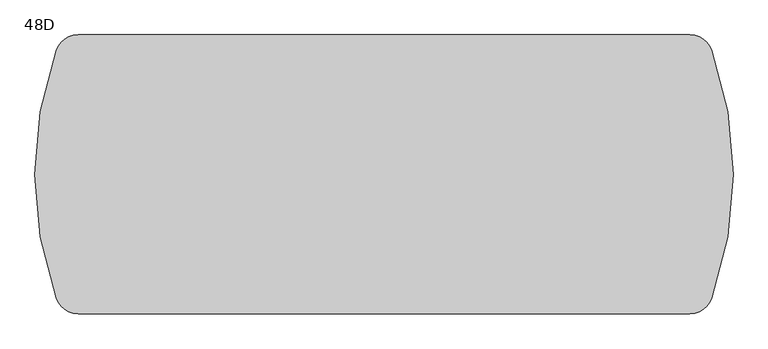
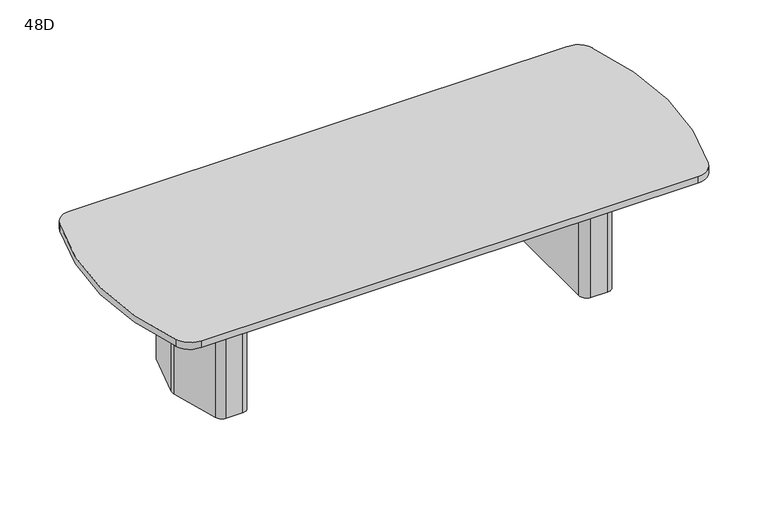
"""IFC4 building model written with IfcOpenShell, lengths in millimetres: furniture geometry, Coalesse_AM_Table_Conference_ETable2_SoftRadiused_10ft_TwoBase : 48D."""

from ifc_helpers import new_model, si_unit, frame, origin, place, context, project, spatial, polyline, circle_curve, outline, extrude, source, transform, mapped, element, save
from ifc_brep_helpers import plane_surface, cylinder_surface, revolved_surface, advanced_brep


def furniture_48d_a796beaa(model_context):
    return source(origin(), model_context, "Body", "SolidModel", [
        advanced_brep(
        [(1065.424548, 274.2093613, 698.5), (1025.5579246, 304.8, 698.5), (936.625, 304.8, 698.5), (895.35, 263.525, 698.5), (895.35, -263.525, 698.5), (936.625, -304.8, 698.5), (1025.5579246, -304.8, 698.5), (1065.424548, -274.2093613, 698.5), (1136.0503901, -10.6333708, 698.5), (1136.0503901, 10.6333708, 698.5), (933.45, -206.375, 698.5), (933.45, 206.375, 698.5), (958.85, 231.775, 698.5), (1017.8608422, 231.775, 698.5), (1042.395338, 212.9490792, 698.5), (1081.0875, 68.54974, 698.5), (1081.0875, -68.54974, 698.5), (1042.395338, -212.9490792, 698.5), (1017.8608422, -231.775, 698.5), (958.85, -231.775, 698.5), (1065.424548, 274.2093613, 3.175), (1136.0503901, 10.6333708, 3.175), (1136.0503901, -10.6333708, 3.175), (1065.424548, -274.2093613, 3.175), (1025.5579246, -304.8, 3.175), (936.625, -304.8, 3.175), (895.35, -263.525, 3.175), (895.35, 263.525, 3.175), (936.625, 304.8, 3.175), (1025.5579246, 304.8, 3.175), (1054.6625859, 216.2361187, 3.175), (1017.8608422, 244.475, 3.175), (958.85, 244.475, 3.175), (920.75, 206.375, 3.175), (920.75, -206.375, 3.175), (958.85, -244.475, 3.175), (1017.8608422, -244.475, 3.175), (1054.6625859, -216.2361187, 3.175), (1093.7875, -70.2217466, 3.175), (1093.7875, 70.2217466, 3.175), (958.85, -231.775, 3.175), (933.45, -206.375, 3.175), (1017.8608422, -231.775, 3.175), (1042.395338, -212.9490792, 3.175), (1081.0875, -68.54974, 3.175), (1081.0875, 68.54974, 3.175), (1042.395338, 212.9490792, 3.175), (1017.8608422, 231.775, 3.175), (958.85, 231.775, 3.175), (933.45, 206.375, 3.175), (1054.6625859, 216.2361187, 0.0), (1093.7875, 70.2217466, 0.0), (1093.7875, -70.2217466, 0.0), (1054.6625859, -216.2361187, 0.0), (1017.8608422, -244.475, 0.0), (958.85, -244.475, 0.0), (920.75, -206.375, 0.0), (920.75, 206.375, 0.0), (958.85, 244.475, 0.0), (1017.8608422, 244.475, 0.0)],
        [
            (0, 1, circle_curve(frame((1025.5579246, 263.5270004, 698.5), z_axis=(0.0, 0.0, 1.0), x_axis=(-1.0, 0.0, 0.0)), 41.2729996)),
            (1, 2),
            (2, 3, circle_curve(frame((936.625, 263.525, 698.5), z_axis=(0.0, 0.0, 1.0), x_axis=(-1.0, 0.0, 0.0)), 41.275)),
            (3, 4),
            (4, 5, circle_curve(frame((936.625, -263.525, 698.5), z_axis=(0.0, 0.0, 1.0), x_axis=(-1.0, 0.0, 0.0)), 41.275)),
            (5, 6),
            (6, 7, circle_curve(frame((1025.5579246, -263.5270004, 698.5), z_axis=(0.0, 0.0, 1.0), x_axis=(-1.0, 0.0, 0.0)), 41.2729996)),
            (7, 8),
            (8, 9, circle_curve(frame((1096.3665979, 0.0, 698.5), z_axis=(0.0, 0.0, 1.0), x_axis=(-1.0, 0.0, 0.0)), 41.0837187)),
            (9, 0),
            (10, 11),
            (11, 12, circle_curve(frame((958.85, 206.375, 698.5), z_axis=(0.0, 0.0, -1.0), x_axis=(-1.0, 0.0, 0.0)), 25.4)),
            (12, 13),
            (13, 14, circle_curve(frame((1017.8608422, 206.375, 698.5), z_axis=(0.0, 0.0, -1.0), x_axis=(-1.0, 0.0, 0.0)), 25.4)),
            (14, 15),
            (15, 16),
            (16, 17),
            (17, 18, circle_curve(frame((1017.8608422, -206.375, 698.5), z_axis=(0.0, 0.0, -1.0), x_axis=(-1.0, 0.0, 0.0)), 25.4)),
            (18, 19),
            (19, 10, circle_curve(frame((958.85, -206.375, 698.5), z_axis=(0.0, 0.0, -1.0), x_axis=(-1.0, 0.0, 0.0)), 25.4)),
            (20, 21),
            (21, 22, circle_curve(frame((1096.3665979, 0.0, 3.175), z_axis=(0.0, 0.0, -1.0), x_axis=(-1.0, 0.0, 0.0)), 41.0837187)),
            (22, 23),
            (23, 24, circle_curve(frame((1025.5579246, -263.5270004, 3.175), z_axis=(0.0, 0.0, -1.0), x_axis=(-1.0, 0.0, 0.0)), 41.2729996)),
            (24, 25),
            (25, 26, circle_curve(frame((936.625, -263.525, 3.175), z_axis=(0.0, 0.0, -1.0), x_axis=(-1.0, 0.0, 0.0)), 41.275)),
            (26, 27),
            (27, 28, circle_curve(frame((936.625, 263.525, 3.175), z_axis=(0.0, 0.0, -1.0), x_axis=(-1.0, 0.0, 0.0)), 41.275)),
            (28, 29),
            (29, 20, circle_curve(frame((1025.5579246, 263.5270004, 3.175), z_axis=(0.0, 0.0, -1.0), x_axis=(-1.0, 0.0, 0.0)), 41.2729996)),
            (30, 31, circle_curve(frame((1017.8608422, 206.375, 3.175), z_axis=(0.0, 0.0, 1.0), x_axis=(-1.0, 0.0, 0.0)), 38.1)),
            (31, 32),
            (32, 33, circle_curve(frame((958.85, 206.375, 3.175), z_axis=(0.0, 0.0, 1.0), x_axis=(-1.0, 0.0, 0.0)), 38.1)),
            (33, 34),
            (34, 35, circle_curve(frame((958.85, -206.375, 3.175), z_axis=(0.0, 0.0, 1.0), x_axis=(-1.0, 0.0, 0.0)), 38.1)),
            (35, 36),
            (36, 37, circle_curve(frame((1017.8608422, -206.375, 3.175), z_axis=(0.0, 0.0, 1.0), x_axis=(-1.0, 0.0, 0.0)), 38.1)),
            (37, 38),
            (38, 39),
            (39, 30),
            (9, 21),
            (20, 0),
            (8, 22),
            (7, 23),
            (6, 24),
            (5, 25),
            (4, 26),
            (3, 27),
            (2, 28),
            (1, 29),
            (19, 40),
            (40, 41, circle_curve(frame((958.85, -206.375, 3.175), z_axis=(0.0, 0.0, -1.0), x_axis=(-1.0, 0.0, 0.0)), 25.4)),
            (41, 10),
            (18, 42),
            (42, 40),
            (17, 43),
            (43, 42, circle_curve(frame((1017.8608422, -206.375, 3.175), z_axis=(0.0, 0.0, -1.0), x_axis=(-1.0, 0.0, 0.0)), 25.4)),
            (16, 44),
            (44, 43),
            (15, 45),
            (45, 44),
            (14, 46),
            (46, 45),
            (13, 47),
            (47, 46, circle_curve(frame((1017.8608422, 206.375, 3.175), z_axis=(0.0, 0.0, -1.0), x_axis=(-1.0, 0.0, 0.0)), 25.4)),
            (12, 48),
            (48, 47),
            (11, 49),
            (49, 48, circle_curve(frame((958.85, 206.375, 3.175), z_axis=(0.0, 0.0, -1.0), x_axis=(-1.0, 0.0, 0.0)), 25.4)),
            (41, 49),
            (50, 51),
            (51, 52),
            (52, 53),
            (53, 54, circle_curve(frame((1017.8608422, -206.375, 0.0), z_axis=(0.0, 0.0, -1.0), x_axis=(-1.0, 0.0, 0.0)), 38.1)),
            (54, 55),
            (55, 56, circle_curve(frame((958.85, -206.375, 0.0), z_axis=(0.0, 0.0, -1.0), x_axis=(-1.0, 0.0, 0.0)), 38.1)),
            (56, 57),
            (57, 58, circle_curve(frame((958.85, 206.375, 0.0), z_axis=(0.0, 0.0, -1.0), x_axis=(-1.0, 0.0, 0.0)), 38.1)),
            (58, 59),
            (59, 50, circle_curve(frame((1017.8608422, 206.375, 0.0), z_axis=(0.0, 0.0, -1.0), x_axis=(-1.0, 0.0, 0.0)), 38.1)),
            (50, 30),
            (39, 51),
            (38, 52),
            (37, 53),
            (36, 54),
            (35, 55),
            (34, 56),
            (33, 57),
            (32, 58),
            (31, 59),
        ],
        [
            plane_surface(frame((1136.0374275, 10.6817473, 698.5), z_axis=(0.0, 0.0, 1.0000000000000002), x_axis=(0.25882201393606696, -0.9659250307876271, 0.0))),
            plane_surface(frame((1136.0374275, 10.6817473, 3.175), z_axis=(0.0, 0.0, -1.0000000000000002), x_axis=(-0.25882201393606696, 0.9659250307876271, 0.0))),
            plane_surface(frame((1065.424548, 274.2093613, 698.5), z_axis=(0.9659250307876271, 0.25882201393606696, 0.0), x_axis=(0.0, 0.0, -1.0))),
            cylinder_surface(frame((1096.3665979, 0.0, 3.175), z_axis=(0.0, 0.0, 1.0), x_axis=(-1.0, 0.0, 0.0)), 41.0837187),
            plane_surface(frame((1136.0503901, -10.6333708, 698.5), z_axis=(0.9659250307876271, -0.2588220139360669, 0.0), x_axis=(0.0, 0.0, -1.0))),
            cylinder_surface(frame((1025.5579246, -263.5270004, 3.175), z_axis=(0.0, 0.0, 1.0), x_axis=(-1.0, 0.0, 0.0)), 41.2729996),
            plane_surface(frame((1025.5579246, -304.8, 698.5), z_axis=(0.0, -1.0, 0.0), x_axis=(0.0, 0.0, -1.0))),
            cylinder_surface(frame((936.625, -263.525, 3.175), z_axis=(0.0, 0.0, 1.0), x_axis=(-1.0, 0.0, 0.0)), 41.275),
            plane_surface(frame((895.35, -263.525, 698.5), z_axis=(-1.0, 0.0, 0.0), x_axis=(0.0, 0.0, -1.0))),
            cylinder_surface(frame((936.625, 263.525, 3.175), z_axis=(0.0, 0.0, 1.0), x_axis=(-1.0, 0.0, 0.0)), 41.275),
            plane_surface(frame((936.625, 304.8, 698.5), z_axis=(0.0, 1.0, 0.0), x_axis=(0.0, 0.0, -1.0))),
            cylinder_surface(frame((1025.5579246, 263.5270004, 3.175), z_axis=(0.0, 0.0, 1.0), x_axis=(-1.0, 0.0, 0.0)), 41.2729996),
            revolved_surface(polyline([(933.45, -206.375, 3.175), (933.45, -206.375, 698.5)]), (958.85, -206.375, 0.0), (0.0, 0.0, -1.0)),
            plane_surface(frame((958.85, -231.775, 698.5), z_axis=(0.0, 1.0, 0.0), x_axis=(0.0, 0.0, -1.0))),
            revolved_surface(polyline([(992.4608422, -206.375, 3.175), (992.4608422, -206.375, 698.5)]), (1017.8608422, -206.375, 0.0), (0.0, 0.0, -1.0)),
            plane_surface(frame((1042.395338, -212.9490792, 698.5), z_axis=(-0.9659250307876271, 0.2588220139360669, 0.0), x_axis=(0.0, 0.0, -1.0))),
            plane_surface(frame((1081.0875, -68.54974, 698.5), z_axis=(-1.0, 0.0, 0.0), x_axis=(0.0, 0.0, -1.0))),
            plane_surface(frame((1081.0875, 68.54974, 698.5), z_axis=(-0.9659250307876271, -0.25882201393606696, 0.0), x_axis=(0.0, 0.0, -1.0))),
            revolved_surface(polyline([(992.4608422, 206.375, 3.175), (992.4608422, 206.375, 698.5)]), (1017.8608422, 206.375, 0.0), (0.0, 0.0, -1.0)),
            plane_surface(frame((1017.8608422, 231.775, 698.5), z_axis=(0.0, -1.0, 0.0), x_axis=(0.0, 0.0, -1.0))),
            revolved_surface(polyline([(933.45, 206.375, 3.175), (933.45, 206.375, 698.5)]), (958.85, 206.375, 0.0), (0.0, 0.0, -1.0)),
            plane_surface(frame((933.45, 206.375, 698.5), z_axis=(1.0, 0.0, 0.0), x_axis=(0.0, 0.0, -1.0))),
            plane_surface(frame((1093.3547479, 71.8367796, 3.175), z_axis=(0.0, 0.0, 1.0), x_axis=(0.25882201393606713, -0.965925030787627, 0.0))),
            plane_surface(frame((1093.3547479, 71.8367796, 0.0), z_axis=(0.0, 0.0, -1.0), x_axis=(-0.25882201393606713, 0.965925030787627, 0.0))),
            plane_surface(frame((1054.6625859, 216.2361187, 3.175), z_axis=(0.965925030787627, 0.25882201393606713, 0.0), x_axis=(0.0, 0.0, -1.0))),
            plane_surface(frame((1093.7875, 70.2217466, 3.175), z_axis=(1.0, 0.0, 0.0), x_axis=(0.0, 0.0, -1.0))),
            plane_surface(frame((1093.7875, -70.2217466, 3.175), z_axis=(0.9659250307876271, -0.2588220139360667, 0.0), x_axis=(0.0, 0.0, -1.0))),
            cylinder_surface(frame((1017.8608422, -206.375, 0.0), z_axis=(0.0, 0.0, 1.0), x_axis=(-1.0, 0.0, 0.0)), 38.1),
            plane_surface(frame((1017.8608422, -244.475, 3.175), z_axis=(0.0, -1.0, 0.0), x_axis=(0.0, 0.0, -1.0))),
            cylinder_surface(frame((958.85, -206.375, 0.0), z_axis=(0.0, 0.0, 1.0), x_axis=(-1.0, 0.0, 0.0)), 38.1),
            plane_surface(frame((920.75, -206.375, 3.175), z_axis=(-1.0, 0.0, 0.0), x_axis=(0.0, 0.0, -1.0))),
            cylinder_surface(frame((958.85, 206.375, 0.0), z_axis=(0.0, 0.0, 1.0), x_axis=(-1.0, 0.0, 0.0)), 38.1),
            plane_surface(frame((958.85, 244.475, 3.175), z_axis=(0.0, 1.0, 0.0), x_axis=(0.0, 0.0, -1.0))),
            cylinder_surface(frame((1017.8608422, 206.375, 0.0), z_axis=(0.0, 0.0, 1.0), x_axis=(-1.0, 0.0, 0.0)), 38.1),
        ],
        [
            (0, [[1, 2, 3, 4, 5, 6, 7, 8, 9, 10], [11, 12, 13, 14, 15, 16, 17, 18, 19, 20]]),
            (1, [[21, 22, 23, 24, 25, 26, 27, 28, 29, 30], [31, 32, 33, 34, 35, 36, 37, 38, 39, 40]]),
            (2, [[41, -21, 42, -10]]),
            (3, [[43, -22, -41, -9]]),
            (4, [[44, -23, -43, -8]]),
            (5, [[45, -24, -44, -7]]),
            (6, [[46, -25, -45, -6]]),
            (7, [[47, -26, -46, -5]]),
            (8, [[48, -27, -47, -4]]),
            (9, [[49, -28, -48, -3]]),
            (10, [[50, -29, -49, -2]]),
            (11, [[-42, -30, -50, -1]]),
            (12, [[51, 52, 53, -20]]),
            (13, [[54, 55, -51, -19]]),
            (14, [[56, 57, -54, -18]]),
            (15, [[58, 59, -56, -17]]),
            (16, [[60, 61, -58, -16]]),
            (17, [[62, 63, -60, -15]]),
            (18, [[64, 65, -62, -14]]),
            (19, [[66, 67, -64, -13]]),
            (20, [[68, 69, -66, -12]]),
            (21, [[-53, 70, -68, -11]]),
            (22, [[-55, -57, -59, -61, -63, -65, -67, -69, -70, -52]]),
            (23, [[71, 72, 73, 74, 75, 76, 77, 78, 79, 80]]),
            (24, [[81, -40, 82, -71]]),
            (25, [[-82, -39, 83, -72]]),
            (26, [[-83, -38, 84, -73]]),
            (27, [[-84, -37, 85, -74]]),
            (28, [[-85, -36, 86, -75]]),
            (29, [[-86, -35, 87, -76]]),
            (30, [[-87, -34, 88, -77]]),
            (31, [[-88, -33, 89, -78]]),
            (32, [[-89, -32, 90, -79]]),
            (33, [[-90, -31, -81, -80]]),
        ],
    ),
        advanced_brep(
        [(-1065.424548, 274.2093613, 698.5), (-1136.0503901, 10.6333708, 698.5), (-1136.0503901, -10.6333708, 698.5), (-1065.424548, -274.2093613, 698.5), (-1025.5579246, -304.8, 698.5), (-936.625, -304.8, 698.5), (-895.35, -263.525, 698.5), (-895.35, 263.525, 698.5), (-936.625, 304.8, 698.5), (-1025.5579246, 304.8, 698.5), (-933.45, -206.375, 698.5), (-958.85, -231.775, 698.5), (-1017.8608422, -231.775, 698.5), (-1042.395338, -212.9490792, 698.5), (-1081.0875, -68.54974, 698.5), (-1081.0875, 68.54974, 698.5), (-1042.395338, 212.9490792, 698.5), (-1017.8608422, 231.775, 698.5), (-958.85, 231.775, 698.5), (-933.45, 206.375, 698.5), (-1065.424548, 274.2093613, 3.175), (-1025.5579246, 304.8, 3.175), (-936.625, 304.8, 3.175), (-895.35, 263.525, 3.175), (-895.35, -263.525, 3.175), (-936.625, -304.8, 3.175), (-1025.5579246, -304.8, 3.175), (-1065.424548, -274.2093613, 3.175), (-1136.0503901, -10.6333708, 3.175), (-1136.0503901, 10.6333708, 3.175), (-1054.6625859, 216.2361187, 3.175), (-1093.7875, 70.2217466, 3.175), (-1093.7875, -70.2217466, 3.175), (-1054.6625859, -216.2361187, 3.175), (-1017.8608422, -244.475, 3.175), (-958.85, -244.475, 3.175), (-920.75, -206.375, 3.175), (-920.75, 206.375, 3.175), (-958.85, 244.475, 3.175), (-1017.8608422, 244.475, 3.175), (-933.45, -206.375, 3.175), (-958.85, -231.775, 3.175), (-1017.8608422, -231.775, 3.175), (-1042.395338, -212.9490792, 3.175), (-1081.0875, -68.54974, 3.175), (-1081.0875, 68.54974, 3.175), (-1042.395338, 212.9490792, 3.175), (-1017.8608422, 231.775, 3.175), (-958.85, 231.775, 3.175), (-933.45, 206.375, 3.175), (-1054.6625859, 216.2361187, 0.0), (-1017.8608422, 244.475, 0.0), (-958.85, 244.475, 0.0), (-920.75, 206.375, 0.0), (-920.75, -206.375, 0.0), (-958.85, -244.475, 0.0), (-1017.8608422, -244.475, 0.0), (-1054.6625859, -216.2361187, 0.0), (-1093.7875, -70.2217466, 0.0), (-1093.7875, 70.2217466, 0.0)],
        [
            (0, 1),
            (1, 2, circle_curve(frame((-1096.3665979, 0.0, 698.5), z_axis=(0.0, 0.0, 1.0), x_axis=(1.0, 0.0, 0.0)), 41.0837187)),
            (2, 3),
            (3, 4, circle_curve(frame((-1025.5579246, -263.5270004, 698.5), z_axis=(0.0, 0.0, 1.0), x_axis=(1.0, 0.0, 0.0)), 41.2729996)),
            (4, 5),
            (5, 6, circle_curve(frame((-936.625, -263.525, 698.5), z_axis=(0.0, 0.0, 1.0), x_axis=(1.0, 0.0, 0.0)), 41.275)),
            (6, 7),
            (7, 8, circle_curve(frame((-936.625, 263.525, 698.5), z_axis=(0.0, 0.0, 1.0), x_axis=(1.0, 0.0, 0.0)), 41.275)),
            (8, 9),
            (9, 0, circle_curve(frame((-1025.5579246, 263.5270004, 698.5), z_axis=(0.0, 0.0, 1.0), x_axis=(1.0, 0.0, 0.0)), 41.2729996)),
            (10, 11, circle_curve(frame((-958.85, -206.375, 698.5), z_axis=(0.0, 0.0, -1.0), x_axis=(1.0, 0.0, 0.0)), 25.4)),
            (11, 12),
            (12, 13, circle_curve(frame((-1017.8608422, -206.375, 698.5), z_axis=(0.0, 0.0, -1.0), x_axis=(1.0, 0.0, 0.0)), 25.4)),
            (13, 14),
            (14, 15),
            (15, 16),
            (16, 17, circle_curve(frame((-1017.8608422, 206.375, 698.5), z_axis=(0.0, 0.0, -1.0), x_axis=(1.0, 0.0, 0.0)), 25.4)),
            (17, 18),
            (18, 19, circle_curve(frame((-958.85, 206.375, 698.5), z_axis=(0.0, 0.0, -1.0), x_axis=(1.0, 0.0, 0.0)), 25.4)),
            (19, 10),
            (20, 21, circle_curve(frame((-1025.5579246, 263.5270004, 3.175), z_axis=(0.0, 0.0, -1.0), x_axis=(1.0, 0.0, 0.0)), 41.2729996)),
            (21, 22),
            (22, 23, circle_curve(frame((-936.625, 263.525, 3.175), z_axis=(0.0, 0.0, -1.0), x_axis=(1.0, 0.0, 0.0)), 41.275)),
            (23, 24),
            (24, 25, circle_curve(frame((-936.625, -263.525, 3.175), z_axis=(0.0, 0.0, -1.0), x_axis=(1.0, 0.0, 0.0)), 41.275)),
            (25, 26),
            (26, 27, circle_curve(frame((-1025.5579246, -263.5270004, 3.175), z_axis=(0.0, 0.0, -1.0), x_axis=(1.0, 0.0, 0.0)), 41.2729996)),
            (27, 28),
            (28, 29, circle_curve(frame((-1096.3665979, 0.0, 3.175), z_axis=(0.0, 0.0, -1.0), x_axis=(1.0, 0.0, 0.0)), 41.0837187)),
            (29, 20),
            (30, 31),
            (31, 32),
            (32, 33),
            (33, 34, circle_curve(frame((-1017.8608422, -206.375, 3.175), z_axis=(0.0, 0.0, 1.0), x_axis=(1.0, 0.0, 0.0)), 38.1)),
            (34, 35),
            (35, 36, circle_curve(frame((-958.85, -206.375, 3.175), z_axis=(0.0, 0.0, 1.0), x_axis=(1.0, 0.0, 0.0)), 38.1)),
            (36, 37),
            (37, 38, circle_curve(frame((-958.85, 206.375, 3.175), z_axis=(0.0, 0.0, 1.0), x_axis=(1.0, 0.0, 0.0)), 38.1)),
            (38, 39),
            (39, 30, circle_curve(frame((-1017.8608422, 206.375, 3.175), z_axis=(0.0, 0.0, 1.0), x_axis=(1.0, 0.0, 0.0)), 38.1)),
            (0, 20),
            (29, 1),
            (28, 2),
            (27, 3),
            (26, 4),
            (25, 5),
            (24, 6),
            (23, 7),
            (22, 8),
            (21, 9),
            (10, 40),
            (40, 41, circle_curve(frame((-958.85, -206.375, 3.175), z_axis=(0.0, 0.0, -1.0), x_axis=(1.0, 0.0, 0.0)), 25.4)),
            (41, 11),
            (41, 42),
            (42, 12),
            (42, 43, circle_curve(frame((-1017.8608422, -206.375, 3.175), z_axis=(0.0, 0.0, -1.0), x_axis=(1.0, 0.0, 0.0)), 25.4)),
            (43, 13),
            (43, 44),
            (44, 14),
            (44, 45),
            (45, 15),
            (45, 46),
            (46, 16),
            (46, 47, circle_curve(frame((-1017.8608422, 206.375, 3.175), z_axis=(0.0, 0.0, -1.0), x_axis=(1.0, 0.0, 0.0)), 25.4)),
            (47, 17),
            (47, 48),
            (48, 18),
            (48, 49, circle_curve(frame((-958.85, 206.375, 3.175), z_axis=(0.0, 0.0, -1.0), x_axis=(1.0, 0.0, 0.0)), 25.4)),
            (49, 19),
            (49, 40),
            (50, 51, circle_curve(frame((-1017.8608422, 206.375, 0.0), z_axis=(0.0, 0.0, -1.0), x_axis=(1.0, 0.0, 0.0)), 38.1)),
            (51, 52),
            (52, 53, circle_curve(frame((-958.85, 206.375, 0.0), z_axis=(0.0, 0.0, -1.0), x_axis=(1.0, 0.0, 0.0)), 38.1)),
            (53, 54),
            (54, 55, circle_curve(frame((-958.85, -206.375, 0.0), z_axis=(0.0, 0.0, -1.0), x_axis=(1.0, 0.0, 0.0)), 38.1)),
            (55, 56),
            (56, 57, circle_curve(frame((-1017.8608422, -206.375, 0.0), z_axis=(0.0, 0.0, -1.0), x_axis=(1.0, 0.0, 0.0)), 38.1)),
            (57, 58),
            (58, 59),
            (59, 50),
            (59, 31),
            (30, 50),
            (58, 32),
            (57, 33),
            (56, 34),
            (55, 35),
            (54, 36),
            (53, 37),
            (52, 38),
            (51, 39),
        ],
        [
            plane_surface(frame((-1136.0374275, 10.6817473, 698.5), z_axis=(0.0, 0.0, 1.0000000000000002), x_axis=(-0.25882201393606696, -0.9659250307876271, 0.0))),
            plane_surface(frame((-1136.0374275, 10.6817473, 3.175), z_axis=(0.0, 0.0, -1.0000000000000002), x_axis=(0.25882201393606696, 0.9659250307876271, 0.0))),
            plane_surface(frame((-1065.424548, 274.2093613, 698.5), z_axis=(-0.9659250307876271, 0.25882201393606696, 0.0), x_axis=(0.0, 0.0, -1.0))),
            cylinder_surface(frame((-1096.3665979, 0.0, 3.175), z_axis=(0.0, 0.0, 1.0), x_axis=(1.0, 0.0, 0.0)), 41.0837187),
            plane_surface(frame((-1136.0503901, -10.6333708, 698.5), z_axis=(-0.9659250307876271, -0.2588220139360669, 0.0), x_axis=(0.0, 0.0, -1.0))),
            cylinder_surface(frame((-1025.5579246, -263.5270004, 3.175), z_axis=(0.0, 0.0, 1.0), x_axis=(1.0, 0.0, 0.0)), 41.2729996),
            plane_surface(frame((-1025.5579246, -304.8, 698.5), z_axis=(0.0, -1.0, 0.0), x_axis=(0.0, 0.0, -1.0))),
            cylinder_surface(frame((-936.625, -263.525, 3.175), z_axis=(0.0, 0.0, 1.0), x_axis=(1.0, 0.0, 0.0)), 41.275),
            plane_surface(frame((-895.35, -263.525, 698.5), z_axis=(1.0, 0.0, 0.0), x_axis=(0.0, 0.0, -1.0))),
            cylinder_surface(frame((-936.625, 263.525, 3.175), z_axis=(0.0, 0.0, 1.0), x_axis=(1.0, 0.0, 0.0)), 41.275),
            plane_surface(frame((-936.625, 304.8, 698.5), z_axis=(0.0, 1.0, 0.0), x_axis=(0.0, 0.0, -1.0))),
            cylinder_surface(frame((-1025.5579246, 263.5270004, 3.175), z_axis=(0.0, 0.0, 1.0), x_axis=(1.0, 0.0, 0.0)), 41.2729996),
            revolved_surface(polyline([(-933.45, -206.375, 3.175), (-933.45, -206.375, 698.5)]), (-958.85, -206.375, 0.0), (0.0, 0.0, -1.0)),
            plane_surface(frame((-958.85, -231.775, 698.5), z_axis=(0.0, 1.0, 0.0), x_axis=(0.0, 0.0, -1.0))),
            revolved_surface(polyline([(-992.4608422, -206.375, 3.175), (-992.4608422, -206.375, 698.5)]), (-1017.8608422, -206.375, 0.0), (0.0, 0.0, -1.0)),
            plane_surface(frame((-1042.395338, -212.9490792, 698.5), z_axis=(0.9659250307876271, 0.2588220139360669, 0.0), x_axis=(0.0, 0.0, -1.0))),
            plane_surface(frame((-1081.0875, -68.54974, 698.5), z_axis=(1.0, 0.0, 0.0), x_axis=(0.0, 0.0, -1.0))),
            plane_surface(frame((-1081.0875, 68.54974, 698.5), z_axis=(0.9659250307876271, -0.25882201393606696, 0.0), x_axis=(0.0, 0.0, -1.0))),
            revolved_surface(polyline([(-992.4608422, 206.375, 3.175), (-992.4608422, 206.375, 698.5)]), (-1017.8608422, 206.375, 0.0), (0.0, 0.0, -1.0)),
            plane_surface(frame((-1017.8608422, 231.775, 698.5), z_axis=(0.0, -1.0, 0.0), x_axis=(0.0, 0.0, -1.0))),
            revolved_surface(polyline([(-933.45, 206.375, 3.175), (-933.45, 206.375, 698.5)]), (-958.85, 206.375, 0.0), (0.0, 0.0, -1.0)),
            plane_surface(frame((-933.45, 206.375, 698.5), z_axis=(-1.0, 0.0, 0.0), x_axis=(0.0, 0.0, -1.0))),
            plane_surface(frame((-1093.3547479, 71.8367796, 3.175), z_axis=(0.0, 0.0, 1.0), x_axis=(-0.25882201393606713, -0.965925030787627, 0.0))),
            plane_surface(frame((-1093.3547479, 71.8367796, 0.0), z_axis=(0.0, 0.0, -1.0), x_axis=(0.25882201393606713, 0.965925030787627, 0.0))),
            plane_surface(frame((-1054.6625859, 216.2361187, 3.175), z_axis=(-0.965925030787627, 0.25882201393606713, 0.0), x_axis=(0.0, 0.0, -1.0))),
            plane_surface(frame((-1093.7875, 70.2217466, 3.175), z_axis=(-1.0, 0.0, 0.0), x_axis=(0.0, 0.0, -1.0))),
            plane_surface(frame((-1093.7875, -70.2217466, 3.175), z_axis=(-0.9659250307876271, -0.2588220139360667, 0.0), x_axis=(0.0, 0.0, -1.0))),
            cylinder_surface(frame((-1017.8608422, -206.375, 0.0), z_axis=(0.0, 0.0, 1.0), x_axis=(1.0, 0.0, 0.0)), 38.1),
            plane_surface(frame((-1017.8608422, -244.475, 3.175), z_axis=(0.0, -1.0, 0.0), x_axis=(0.0, 0.0, -1.0))),
            cylinder_surface(frame((-958.85, -206.375, 0.0), z_axis=(0.0, 0.0, 1.0), x_axis=(1.0, 0.0, 0.0)), 38.1),
            plane_surface(frame((-920.75, -206.375, 3.175), z_axis=(1.0, 0.0, 0.0), x_axis=(0.0, 0.0, -1.0))),
            cylinder_surface(frame((-958.85, 206.375, 0.0), z_axis=(0.0, 0.0, 1.0), x_axis=(1.0, 0.0, 0.0)), 38.1),
            plane_surface(frame((-958.85, 244.475, 3.175), z_axis=(0.0, 1.0, 0.0), x_axis=(0.0, 0.0, -1.0))),
            cylinder_surface(frame((-1017.8608422, 206.375, 0.0), z_axis=(0.0, 0.0, 1.0), x_axis=(1.0, 0.0, 0.0)), 38.1),
        ],
        [
            (0, [[1, 2, 3, 4, 5, 6, 7, 8, 9, 10], [11, 12, 13, 14, 15, 16, 17, 18, 19, 20]]),
            (1, [[21, 22, 23, 24, 25, 26, 27, 28, 29, 30], [31, 32, 33, 34, 35, 36, 37, 38, 39, 40]]),
            (2, [[-1, 41, -30, 42]]),
            (3, [[-2, -42, -29, 43]]),
            (4, [[-3, -43, -28, 44]]),
            (5, [[-4, -44, -27, 45]]),
            (6, [[-5, -45, -26, 46]]),
            (7, [[-6, -46, -25, 47]]),
            (8, [[-7, -47, -24, 48]]),
            (9, [[-8, -48, -23, 49]]),
            (10, [[-9, -49, -22, 50]]),
            (11, [[-10, -50, -21, -41]]),
            (12, [[-11, 51, 52, 53]]),
            (13, [[-12, -53, 54, 55]]),
            (14, [[-13, -55, 56, 57]]),
            (15, [[-14, -57, 58, 59]]),
            (16, [[-15, -59, 60, 61]]),
            (17, [[-16, -61, 62, 63]]),
            (18, [[-17, -63, 64, 65]]),
            (19, [[-18, -65, 66, 67]]),
            (20, [[-19, -67, 68, 69]]),
            (21, [[-20, -69, 70, -51]]),
            (22, [[-52, -70, -68, -66, -64, -62, -60, -58, -56, -54]]),
            (23, [[71, 72, 73, 74, 75, 76, 77, 78, 79, 80]]),
            (24, [[-80, 81, -31, 82]]),
            (25, [[-79, 83, -32, -81]]),
            (26, [[-78, 84, -33, -83]]),
            (27, [[-77, 85, -34, -84]]),
            (28, [[-76, 86, -35, -85]]),
            (29, [[-75, 87, -36, -86]]),
            (30, [[-74, 88, -37, -87]]),
            (31, [[-73, 89, -38, -88]]),
            (32, [[-72, 90, -39, -89]]),
            (33, [[-71, -82, -40, -90]]),
        ],
    ),
        extrude(outline(polyline([(96.8375, 698.5), (103.1875, 698.5), (103.1875, 476.25), (-103.1875, 476.25), (-103.1875, 698.5), (-96.8375, 698.5), (-96.8375, 482.6), (96.8375, 482.6), (96.8375, 698.5)])), frame((-895.35, 0.0, 0.0), z_axis=(1.0, 0.0, 0.0), x_axis=(0.0, 1.0, 0.0)), (0.0, 0.0, 1.0), 1790.7),
        advanced_brep(
        [(-1335.2420702, 609.6, 736.6), (-1431.0315996, 541.8662966, 736.6), (-1431.7818993, 539.7441026, 736.6), (-1431.7818993, -539.7441026, 736.6), (-1431.0315996, -541.8662966, 736.6), (-1335.2417376, -609.6, 736.6), (1335.2420702, -609.6, 736.6), (1431.0315996, -541.8662966, 736.6), (1431.7818993, -539.7441026, 736.6), (1431.7818993, 539.7441026, 736.6), (1431.0315996, 541.8662966, 736.6), (1335.2420702, 609.6, 736.6), (-1335.2420702, 609.6, 698.5), (1335.2420702, 609.6, 698.5), (1431.0315996, 541.8662966, 698.5), (1431.7818993, 539.7441026, 698.5), (1431.7818993, -539.7441026, 698.5), (1431.0315996, -541.8662966, 698.5), (1335.2420702, -609.6, 698.5), (-1335.2417376, -609.6, 698.5), (-1431.0312448, -541.8663594, 698.5), (-1431.7818993, -539.7441026, 698.5), (-1431.7818993, 539.7441026, 698.5), (-1431.0315996, 541.8662966, 698.5)],
        [
            (0, 1, circle_curve(frame((-1335.2420702, 508.0, 736.6), z_axis=(0.0, 0.0, 1.0), x_axis=(1.0, 0.0, 0.0)), 101.6)),
            (1, 2),
            (2, 3, circle_curve(frame((94.8637263, 0.0, 736.6), z_axis=(0.0, 0.0, 1.0), x_axis=(1.0, 0.0, 0.0)), 1619.25)),
            (3, 4),
            (4, 5, circle_curve(frame((-1335.2417376, -508.0, 736.6), z_axis=(0.0, 0.0, 1.0), x_axis=(1.0, 0.0, 0.0)), 101.6)),
            (5, 6),
            (6, 7, circle_curve(frame((1335.2420702, -508.0, 736.6), z_axis=(0.0, 0.0, 1.0), x_axis=(1.0, 0.0, 0.0)), 101.6)),
            (7, 8),
            (8, 9, circle_curve(frame((-94.8637263, 0.0, 736.6), z_axis=(0.0, 0.0, 1.0), x_axis=(1.0, 0.0, 0.0)), 1619.25)),
            (9, 10),
            (10, 11, circle_curve(frame((1335.2420702, 508.0, 736.6), z_axis=(0.0, 0.0, 1.0), x_axis=(1.0, 0.0, 0.0)), 101.6)),
            (11, 0),
            (12, 13),
            (13, 14, circle_curve(frame((1335.2420702, 508.0, 698.5), z_axis=(0.0, 0.0, -1.0), x_axis=(1.0, 0.0, 0.0)), 101.6)),
            (14, 15),
            (15, 16, circle_curve(frame((-94.8637263, 0.0, 698.5), z_axis=(0.0, 0.0, -1.0), x_axis=(1.0, 0.0, 0.0)), 1619.25)),
            (16, 17),
            (17, 18, circle_curve(frame((1335.2420702, -508.0, 698.5), z_axis=(0.0, 0.0, -1.0), x_axis=(1.0, 0.0, 0.0)), 101.6)),
            (18, 19),
            (19, 20, circle_curve(frame((-1335.2417376, -508.0, 698.5), z_axis=(0.0, 0.0, -1.0), x_axis=(1.0, 0.0, 0.0)), 101.6)),
            (20, 21),
            (21, 22, circle_curve(frame((94.8637263, 0.0, 698.5), z_axis=(0.0, 0.0, -1.0), x_axis=(1.0, 0.0, 0.0)), 1619.25)),
            (22, 23),
            (23, 12, circle_curve(frame((-1335.2420702, 508.0, 698.5), z_axis=(0.0, 0.0, -1.0), x_axis=(1.0, 0.0, 0.0)), 101.6)),
            (0, 12),
            (23, 1),
            (22, 2),
            (21, 3),
            (20, 4),
            (19, 5),
            (18, 6),
            (17, 7),
            (16, 8),
            (15, 9),
            (14, 10),
            (13, 11),
        ],
        [
            plane_surface(frame((-1233.6420702, 508.0, 736.6), z_axis=(0.0, 0.0, 1.0), x_axis=(0.0, 1.0, 0.0))),
            plane_surface(frame((-1233.6420702, 508.0, 698.5), z_axis=(0.0, 0.0, -1.0), x_axis=(0.0, -1.0, 0.0))),
            cylinder_surface(frame((-1335.2420702, 508.0, 698.5), z_axis=(0.0, 0.0, 1.0), x_axis=(1.0, 0.0, 0.0)), 101.6),
            plane_surface(frame((-1431.0315996, 541.8662966, 736.6), z_axis=(-0.9428103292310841, 0.33332969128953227, 0.0), x_axis=(0.0, 0.0, -1.0))),
            cylinder_surface(frame((94.8637263, 0.0, 698.5), z_axis=(0.0, 0.0, 1.0), x_axis=(1.0, 0.0, 0.0)), 1619.25),
            plane_surface(frame((-1431.7818993, -539.7441026, 736.6), z_axis=(-0.9428103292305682, -0.33332969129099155, 0.0), x_axis=(0.0, 0.0, -1.0))),
            cylinder_surface(frame((-1335.2417376, -508.0, 698.5), z_axis=(0.0, 0.0, 1.0), x_axis=(1.0, 0.0, 0.0)), 101.6),
            plane_surface(frame((-1335.2417376, -609.6, 736.6), z_axis=(0.0, -1.0, 0.0), x_axis=(0.0, 0.0, -1.0))),
            cylinder_surface(frame((1335.2420702, -508.0, 698.5), z_axis=(0.0, 0.0, 1.0), x_axis=(1.0, 0.0, 0.0)), 101.6),
            plane_surface(frame((1431.0315996, -541.8662966, 736.6), z_axis=(0.9428103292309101, -0.33332969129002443, 0.0), x_axis=(0.0, 0.0, -1.0))),
            cylinder_surface(frame((-94.8637263, 0.0, 698.5), z_axis=(0.0, 0.0, 1.0), x_axis=(1.0, 0.0, 0.0)), 1619.25),
            plane_surface(frame((1431.7818993, 539.7441026, 736.6), z_axis=(0.9428103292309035, 0.33332969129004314, 0.0), x_axis=(0.0, 0.0, -1.0))),
            cylinder_surface(frame((1335.2420702, 508.0, 698.5), z_axis=(0.0, 0.0, 1.0), x_axis=(1.0, 0.0, 0.0)), 101.6),
            plane_surface(frame((1335.2420702, 609.6, 736.6), z_axis=(0.0, 1.0, 0.0), x_axis=(0.0, 0.0, -1.0))),
        ],
        [
            (0, [[1, 2, 3, 4, 5, 6, 7, 8, 9, 10, 11, 12]]),
            (1, [[13, 14, 15, 16, 17, 18, 19, 20, 21, 22, 23, 24]]),
            (2, [[-1, 25, -24, 26]]),
            (3, [[-2, -26, -23, 27]]),
            (4, [[-3, -27, -22, 28]]),
            (5, [[-4, -28, -21, 29]]),
            (6, [[-5, -29, -20, 30]]),
            (7, [[-6, -30, -19, 31]]),
            (8, [[-7, -31, -18, 32]]),
            (9, [[-8, -32, -17, 33]]),
            (10, [[-9, -33, -16, 34]]),
            (11, [[-10, -34, -15, 35]]),
            (12, [[-11, -35, -14, 36]]),
            (13, [[-12, -36, -13, -25]]),
        ],
    ),
    ])


if __name__ == "__main__":
    model = new_model("IFC4")
    model_context = context("Model", 3, world=origin())
    ifc_project = project(units=[si_unit("LENGTHUNIT", "METRE", prefix="MILLI")], contexts=[model_context])
    site = spatial("IfcSite", under=ifc_project)
    building = spatial("IfcBuilding", under=site)
    placement = place(None, origin())
    furniture_48d_shape = furniture_48d_a796beaa(model_context)
    element("IfcFurniture", 1, ObjectType="Coalesse_AM_Table_Conference_ETable2_SoftRadiused_10ft_TwoBase : 48D", at=placement, inside=building, context=model_context, shape_type="MappedRepresentation", body=[
        mapped(furniture_48d_shape, transform((0.0, 0.0, 0.0), x_axis=(1.0, 0.0, 0.0), y_axis=(0.0, 1.0, 0.0), z_axis=(0.0, 0.0, 1.0))),
    ])
    save(model, "model.ifc")
